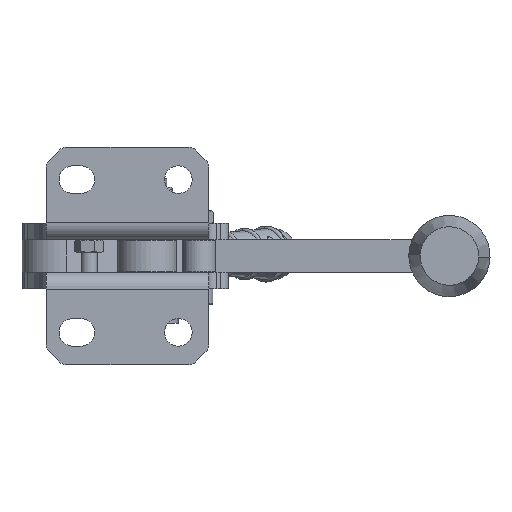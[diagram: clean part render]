
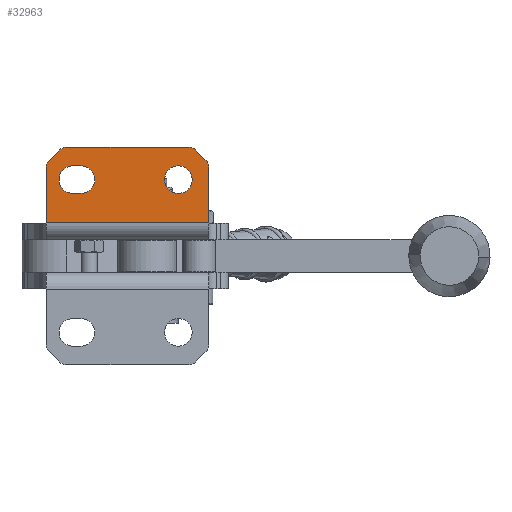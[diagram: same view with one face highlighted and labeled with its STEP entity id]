
A CAD part, front view. The second image highlights one B-rep face of the part: STEP entity #32963.
In plain terms, the highlighted planar face has unit normal (0, -1, 0).
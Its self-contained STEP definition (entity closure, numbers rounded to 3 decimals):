
#1222 = LINE ( 'NONE', #53774, #21332 ) ;
#1282 = CIRCLE ( 'NONE', #6361, 4.25 ) ;
#1468 = CARTESIAN_POINT ( 'NONE',  ( 18.257, 21.008, 28.502 ) ) ;
#1549 = AXIS2_PLACEMENT_3D ( 'NONE', #24712, #43849, #48946 ) ;
#2218 = CARTESIAN_POINT ( 'NONE',  ( -17.35, 21.008, 22.752 ) ) ;
#2466 = CARTESIAN_POINT ( 'NONE',  ( 20.379, 21.008, 27.623 ) ) ;
#3438 = LINE ( 'NONE', #36270, #6538 ) ;
#3633 = VERTEX_POINT ( 'NONE', #35476 ) ;
#4061 = CIRCLE ( 'NONE', #39663, 3. ) ;
#4755 = ORIENTED_EDGE ( 'NONE', *, *, #51891, .T. ) ;
#4902 = LINE ( 'NONE', #15382, #57680 ) ;
#6016 = VERTEX_POINT ( 'NONE', #26846 ) ;
#6075 = DIRECTION ( 'NONE',  ( -1., 0., 0. ) ) ;
#6361 = AXIS2_PLACEMENT_3D ( 'NONE', #35918, #55346, #46131 ) ;
#6538 = VECTOR ( 'NONE', #56631, 1000. ) ;
#7295 = CARTESIAN_POINT ( 'NONE',  ( -25.5, 21.008, 5.2 ) ) ;
#8251 = VERTEX_POINT ( 'NONE', #19413 ) ;
#8864 = CARTESIAN_POINT ( 'NONE',  ( -19.257, 21.008, 28.502 ) ) ;
#9043 = CARTESIAN_POINT ( 'NONE',  ( -10.25, 21.008, 38.752 ) ) ;
#9403 = CARTESIAN_POINT ( 'NONE',  ( -22.5, 21.008, 22.259 ) ) ;
#9642 = LINE ( 'NONE', #9043, #53035 ) ;
#9886 = VERTEX_POINT ( 'NONE', #32028 ) ;
#10431 = VERTEX_POINT ( 'NONE', #2466 ) ;
#10521 = EDGE_CURVE ( 'NONE', #43753, #45568, #1282, .T. ) ;
#10977 = ORIENTED_EDGE ( 'NONE', *, *, #29147, .T. ) ;
#11207 = ORIENTED_EDGE ( 'NONE', *, *, #16977, .T. ) ;
#11956 = DIRECTION ( 'NONE',  ( 0., 0., 1. ) ) ;
#12332 = EDGE_CURVE ( 'NONE', #45568, #3633, #3438, .T. ) ;
#13023 = AXIS2_PLACEMENT_3D ( 'NONE', #18503, #43063, #62507 ) ;
#14458 = CIRCLE ( 'NONE', #50090, 4.25 ) ;
#15382 = CARTESIAN_POINT ( 'NONE',  ( 24.5, 21.008, -30.498 ) ) ;
#16012 = CIRCLE ( 'NONE', #48613, 3. ) ;
#16177 = VERTEX_POINT ( 'NONE', #32030 ) ;
#16535 = ORIENTED_EDGE ( 'NONE', *, *, #42450, .F. ) ;
#16977 = EDGE_CURVE ( 'NONE', #9886, #18174, #24268, .T. ) ;
#17761 = LINE ( 'NONE', #18068, #21773 ) ;
#18068 = CARTESIAN_POINT ( 'NONE',  ( -25.5, 21.008, -16.498 ) ) ;
#18174 = VERTEX_POINT ( 'NONE', #33600 ) ;
#18327 = ORIENTED_EDGE ( 'NONE', *, *, #55521, .T. ) ;
#18503 = CARTESIAN_POINT ( 'NONE',  ( -17.35, 21.008, 18.502 ) ) ;
#19099 = VERTEX_POINT ( 'NONE', #42889 ) ;
#19413 = CARTESIAN_POINT ( 'NONE',  ( 23.621, 21.008, 24.381 ) ) ;
#19469 = CARTESIAN_POINT ( 'NONE',  ( 0., 21.008, 28.502 ) ) ;
#20059 = ORIENTED_EDGE ( 'NONE', *, *, #56867, .T. ) ;
#20133 = CIRCLE ( 'NONE', #13023, 4.25 ) ;
#20522 = CIRCLE ( 'NONE', #32762, 4.25 ) ;
#21332 = VECTOR ( 'NONE', #30548, 1000. ) ;
#21586 = ORIENTED_EDGE ( 'NONE', *, *, #24034, .T. ) ;
#21773 = VECTOR ( 'NONE', #56947, 1000. ) ;
#21940 = EDGE_CURVE ( 'NONE', #40911, #30000, #56250, .T. ) ;
#22837 = DIRECTION ( 'NONE',  ( -1., 0., 0. ) ) ;
#23748 = CARTESIAN_POINT ( 'NONE',  ( 24.5, 21.008, 28.502 ) ) ;
#24034 = EDGE_CURVE ( 'NONE', #3633, #6016, #20133, .T. ) ;
#24268 = CIRCLE ( 'NONE', #52741, 3. ) ;
#24712 = CARTESIAN_POINT ( 'NONE',  ( 21.5, 21.008, 22.259 ) ) ;
#25370 = VECTOR ( 'NONE', #31553, 1000. ) ;
#25765 = VERTEX_POINT ( 'NONE', #7295 ) ;
#26624 = EDGE_CURVE ( 'NONE', #6016, #43753, #61160, .T. ) ;
#26846 = CARTESIAN_POINT ( 'NONE',  ( -17.35, 21.008, 22.752 ) ) ;
#27253 = DIRECTION ( 'NONE',  ( -1., 0., 0. ) ) ;
#28282 = DIRECTION ( 'NONE',  ( -1., 0., 0. ) ) ;
#28600 = ORIENTED_EDGE ( 'NONE', *, *, #29805, .F. ) ;
#29053 = CIRCLE ( 'NONE', #1549, 3. ) ;
#29147 = EDGE_CURVE ( 'NONE', #8251, #10431, #57075, .T. ) ;
#29218 = DIRECTION ( 'NONE',  ( 0., -1., 0. ) ) ;
#29395 = FACE_OUTER_BOUND ( 'NONE', #59984, .T. ) ;
#29805 = EDGE_CURVE ( 'NONE', #25765, #18174, #17761, .T. ) ;
#30000 = VERTEX_POINT ( 'NONE', #1468 ) ;
#30334 = FACE_BOUND ( 'NONE', #41172, .T. ) ;
#30548 = DIRECTION ( 'NONE',  ( 1., 0., 0. ) ) ;
#31553 = DIRECTION ( 'NONE',  ( 1., 0., 0. ) ) ;
#31758 = ORIENTED_EDGE ( 'NONE', *, *, #26624, .T. ) ;
#32028 = CARTESIAN_POINT ( 'NONE',  ( -24.621, 21.008, 24.381 ) ) ;
#32030 = CARTESIAN_POINT ( 'NONE',  ( 24.5, 21.008, 22.259 ) ) ;
#32684 = CARTESIAN_POINT ( 'NONE',  ( 18.257, 21.008, 25.502 ) ) ;
#32762 = AXIS2_PLACEMENT_3D ( 'NONE', #60033, #45380, #58767 ) ;
#32963 = ADVANCED_FACE ( 'NONE', ( #30334, #53562, #29395 ), #34458, .T. ) ;
#33600 = CARTESIAN_POINT ( 'NONE',  ( -25.5, 21.008, 22.259 ) ) ;
#34458 = PLANE ( 'NONE',  #61767 ) ;
#35179 = CARTESIAN_POINT ( 'NONE',  ( 15.1, 21.008, 22.752 ) ) ;
#35271 = CARTESIAN_POINT ( 'NONE',  ( 15.1, 21.008, 18.502 ) ) ;
#35437 = EDGE_CURVE ( 'NONE', #10431, #30000, #16012, .T. ) ;
#35476 = CARTESIAN_POINT ( 'NONE',  ( -17.35, 21.008, 14.252 ) ) ;
#35918 = CARTESIAN_POINT ( 'NONE',  ( -14.85, 21.008, 18.502 ) ) ;
#36202 = ORIENTED_EDGE ( 'NONE', *, *, #21940, .F. ) ;
#36270 = CARTESIAN_POINT ( 'NONE',  ( -17.35, 21.008, 14.252 ) ) ;
#36834 = EDGE_LOOP ( 'NONE', ( #58884, #4755 ) ) ;
#37150 = DIRECTION ( 'NONE',  ( 1., 0., 0. ) ) ;
#38765 = CARTESIAN_POINT ( 'NONE',  ( -19.257, 21.008, 25.502 ) ) ;
#39663 = AXIS2_PLACEMENT_3D ( 'NONE', #38765, #29218, #28282 ) ;
#39970 = VECTOR ( 'NONE', #62817, 1000. ) ;
#40911 = VERTEX_POINT ( 'NONE', #8864 ) ;
#41172 = EDGE_LOOP ( 'NONE', ( #21586, #31758, #49146, #60839 ) ) ;
#41449 = EDGE_CURVE ( 'NONE', #16177, #8251, #29053, .T. ) ;
#41571 = VERTEX_POINT ( 'NONE', #59425 ) ;
#42450 = EDGE_CURVE ( 'NONE', #16177, #19099, #4902, .T. ) ;
#42889 = CARTESIAN_POINT ( 'NONE',  ( 24.5, 21.008, 5.2 ) ) ;
#43063 = DIRECTION ( 'NONE',  ( 0., 1., 0. ) ) ;
#43371 = CARTESIAN_POINT ( 'NONE',  ( 9.75, 21.008, 38.252 ) ) ;
#43753 = VERTEX_POINT ( 'NONE', #48931 ) ;
#43849 = DIRECTION ( 'NONE',  ( 0., -1., 0. ) ) ;
#44568 = CARTESIAN_POINT ( 'NONE',  ( -14.85, 21.008, 14.252 ) ) ;
#45380 = DIRECTION ( 'NONE',  ( 0., 1., 0. ) ) ;
#45568 = VERTEX_POINT ( 'NONE', #44568 ) ;
#46131 = DIRECTION ( 'NONE',  ( 0., 0., 1. ) ) ;
#47021 = DIRECTION ( 'NONE',  ( 0., -1., 0. ) ) ;
#47329 = DIRECTION ( 'NONE',  ( -0.707, 0., -0.707 ) ) ;
#48325 = DIRECTION ( 'NONE',  ( 0., -1., 0. ) ) ;
#48613 = AXIS2_PLACEMENT_3D ( 'NONE', #32684, #47021, #27253 ) ;
#48931 = CARTESIAN_POINT ( 'NONE',  ( -14.85, 21.008, 22.752 ) ) ;
#48946 = DIRECTION ( 'NONE',  ( -1., 0., 0. ) ) ;
#49146 = ORIENTED_EDGE ( 'NONE', *, *, #10521, .T. ) ;
#49735 = DIRECTION ( 'NONE',  ( 0., -1., 0. ) ) ;
#49779 = EDGE_CURVE ( 'NONE', #49885, #61648, #20522, .T. ) ;
#49885 = VERTEX_POINT ( 'NONE', #35179 ) ;
#50090 = AXIS2_PLACEMENT_3D ( 'NONE', #35271, #54698, #11956 ) ;
#51891 = EDGE_CURVE ( 'NONE', #61648, #49885, #14458, .T. ) ;
#52741 = AXIS2_PLACEMENT_3D ( 'NONE', #9403, #48325, #22837 ) ;
#53035 = VECTOR ( 'NONE', #47329, 1000. ) ;
#53401 = ORIENTED_EDGE ( 'NONE', *, *, #41449, .T. ) ;
#53562 = FACE_BOUND ( 'NONE', #36834, .T. ) ;
#53774 = CARTESIAN_POINT ( 'NONE',  ( 0., 21.008, 5.2 ) ) ;
#54252 = DIRECTION ( 'NONE',  ( 0., 0., -1. ) ) ;
#54325 = ORIENTED_EDGE ( 'NONE', *, *, #55309, .T. ) ;
#54698 = DIRECTION ( 'NONE',  ( 0., 1., 0. ) ) ;
#55309 = EDGE_CURVE ( 'NONE', #25765, #19099, #1222, .T. ) ;
#55346 = DIRECTION ( 'NONE',  ( 0., 1., 0. ) ) ;
#55521 = EDGE_CURVE ( 'NONE', #40911, #41571, #4061, .T. ) ;
#56250 = LINE ( 'NONE', #23748, #60115 ) ;
#56631 = DIRECTION ( 'NONE',  ( -1., 0., 0. ) ) ;
#56867 = EDGE_CURVE ( 'NONE', #41571, #9886, #9642, .T. ) ;
#56947 = DIRECTION ( 'NONE',  ( 0., 0., 1. ) ) ;
#57075 = LINE ( 'NONE', #43371, #39970 ) ;
#57680 = VECTOR ( 'NONE', #54252, 1000. ) ;
#58767 = DIRECTION ( 'NONE',  ( 0., 0., 1. ) ) ;
#58884 = ORIENTED_EDGE ( 'NONE', *, *, #49779, .T. ) ;
#59425 = CARTESIAN_POINT ( 'NONE',  ( -21.379, 21.008, 27.623 ) ) ;
#59984 = EDGE_LOOP ( 'NONE', ( #28600, #54325, #16535, #53401, #10977, #60962, #36202, #18327, #20059, #11207 ) ) ;
#60033 = CARTESIAN_POINT ( 'NONE',  ( 15.1, 21.008, 18.502 ) ) ;
#60115 = VECTOR ( 'NONE', #37150, 1000. ) ;
#60839 = ORIENTED_EDGE ( 'NONE', *, *, #12332, .T. ) ;
#60847 = CARTESIAN_POINT ( 'NONE',  ( 15.1, 21.008, 14.252 ) ) ;
#60962 = ORIENTED_EDGE ( 'NONE', *, *, #35437, .T. ) ;
#61160 = LINE ( 'NONE', #2218, #25370 ) ;
#61648 = VERTEX_POINT ( 'NONE', #60847 ) ;
#61767 = AXIS2_PLACEMENT_3D ( 'NONE', #19469, #49735, #6075 ) ;
#62507 = DIRECTION ( 'NONE',  ( 0., 0., 1. ) ) ;
#62817 = DIRECTION ( 'NONE',  ( -0.707, 0., 0.707 ) ) ;
